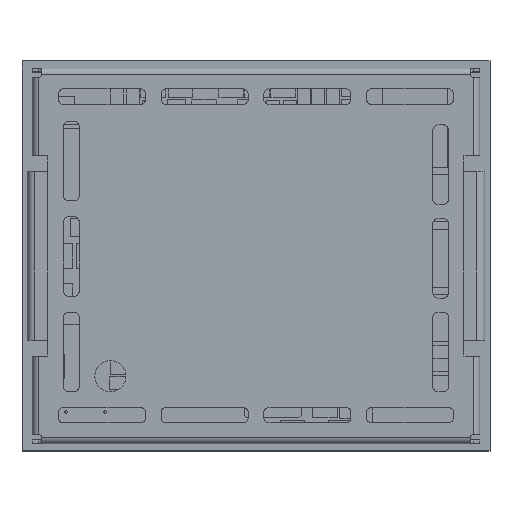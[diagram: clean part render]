
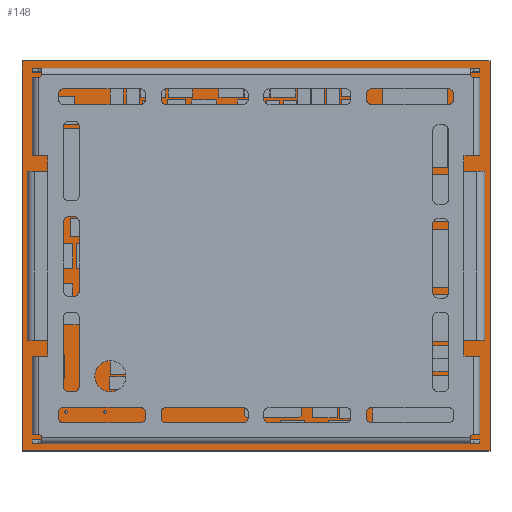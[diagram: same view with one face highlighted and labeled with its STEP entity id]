
A CAD part, top view. The second image highlights one B-rep face of the part: STEP entity #148.
In plain terms, the highlighted planar face has unit normal (0, 0, 1).
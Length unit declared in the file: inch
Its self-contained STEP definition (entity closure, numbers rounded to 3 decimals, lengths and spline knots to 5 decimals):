
#33=DIRECTION('',(0.,1.,0.));
#34=VECTOR('',#33,0.59055);
#35=CARTESIAN_POINT('',(0.,0.,0.02882));
#36=LINE('',#35,#34);
#37=DIRECTION('',(1.,0.,0.));
#38=VECTOR('',#37,0.70866);
#39=CARTESIAN_POINT('',(0.,0.59055,0.02882));
#40=LINE('',#39,#38);
#41=DIRECTION('',(0.,-1.,0.));
#42=VECTOR('',#41,0.59055);
#43=CARTESIAN_POINT('',(0.70866,0.59055,0.02882));
#44=LINE('',#43,#42);
#45=DIRECTION('',(-1.,0.,0.));
#46=VECTOR('',#45,0.70866);
#47=CARTESIAN_POINT('',(0.70866,0.,0.02882));
#48=LINE('',#47,#46);
#57=CARTESIAN_POINT('',(0.,0.59055,0.02882));
#58=VERTEX_POINT('',#57);
#59=CARTESIAN_POINT('',(0.,0.,0.02882));
#60=VERTEX_POINT('',#59);
#61=CARTESIAN_POINT('',(0.70866,0.59055,0.02882));
#62=VERTEX_POINT('',#61);
#63=CARTESIAN_POINT('',(0.70866,0.,0.02882));
#64=VERTEX_POINT('',#63);
#137=CARTESIAN_POINT('',(0.,0.,0.02882));
#138=DIRECTION('',(0.,0.,1.));
#139=DIRECTION('',(1.,0.,0.));
#140=AXIS2_PLACEMENT_3D('',#137,#138,#139);
#141=PLANE('',#140);
#142=ORIENTED_EDGE('',*,*,#89,.T.);
#143=ORIENTED_EDGE('',*,*,#104,.T.);
#144=ORIENTED_EDGE('',*,*,#118,.T.);
#145=ORIENTED_EDGE('',*,*,#131,.T.);
#146=EDGE_LOOP('',(#142,#143,#144,#145));
#147=FACE_OUTER_BOUND('',#146,.F.);
#148=ADVANCED_FACE('',(#147),#141,.T.);
#89=EDGE_CURVE('',#60,#58,#36,.T.);
#104=EDGE_CURVE('',#58,#62,#40,.T.);
#118=EDGE_CURVE('',#62,#64,#44,.T.);
#131=EDGE_CURVE('',#64,#60,#48,.T.);
